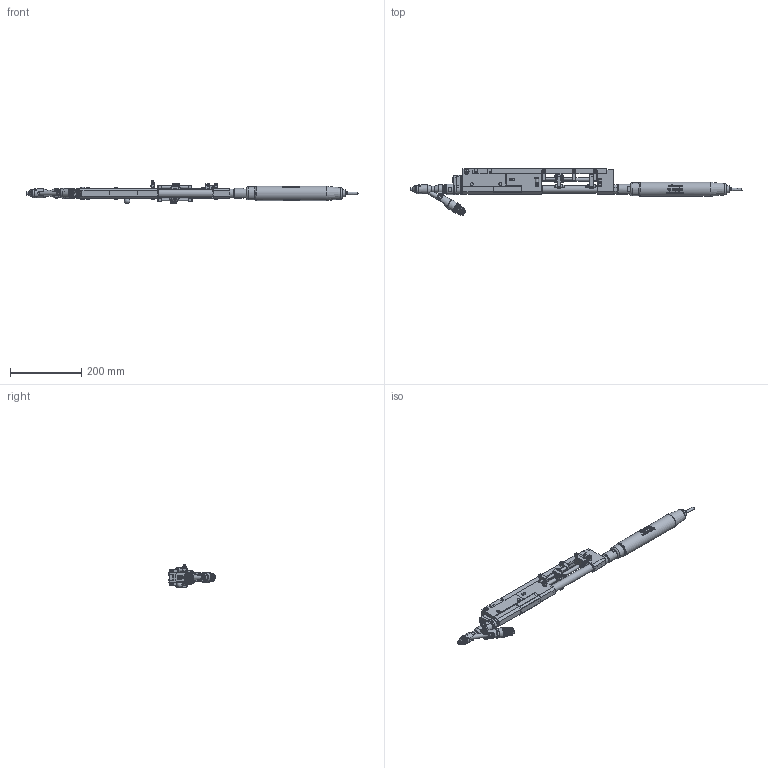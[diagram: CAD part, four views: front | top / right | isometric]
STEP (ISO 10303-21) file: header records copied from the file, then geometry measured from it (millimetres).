
FILE_DESCRIPTION(/* description */ ('© Copyright 2019 – Urheberrechtshinweis Diese CAD-Daten sind urheberrechtlich geschützt. Das Urheberrecht liegt, soweit nicht ausdrücklich anders gekennzeichnet, bei Stöger Automation GmbH. Bitte fragen Sie uns, falls Sie die CAD-Daten vervielfältigen oder'),/* implementation_level */ '2;1');
FILE_NAME(/* name */ 'H:\00_0 Arbeiten für Marketing\581115\581115.stp',/* time_stamp */ '2020-12-01T14:09:24+01:00',/* author */ ('Stöger Automation GmbH'),/* organization */ ('Stöger Automation GmbH'),/* preprocessor_version */ 'ST-DEVELOPER v17',/* originating_system */ 'Autodesk Inventor 2018',/* authorisation */ '');
FILE_SCHEMA (('CONFIG_CONTROL_DESIGN'));
Products named in the file (1): 581115
Bounding box: 933.64 x 131.18 x 65.1 mm (x, y, z)
Volume: 660200.2 mm3; surface area: 308206.2 mm2
Topology: 12 solids, 12 shells, 3655 faces, 10122 edges, 6736 vertices
Faces by surface type: plane 1878, cylinder 768, bspline 567, cone 361, torus 67, sphere 14
Full cylindrical faces by diameter (mm): 1.5 x6, 2 x2, 2.42 x3, 2.459 x3, 2.5 x1, 3 x6, 3.02 x3, 3.04 x3, 3.2 x3, 3.242 x5, 3.6 x2, 3.8 x1, 4 x3, 4.1 x1, 4.134 x20, 4.2 x1, 4.3 x3, 4.917 x8, 5 x9, 5.02 x2, 5.1 x2, 5.3 x1, 5.45 x2, 5.5 x3, 5.6 x1, 6 x5, 6.1 x2, 6.2 x1, 6.5 x4, 6.6 x4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
Entity records: 275732 total; most frequent: CARTESIAN_POINT 185364, ORIENTED_EDGE 20144, DIRECTION 15770, EDGE_CURVE 10072, VERTEX_POINT 6736, AXIS2_PLACEMENT_3D 5762, LINE 4246, VECTOR 4246
